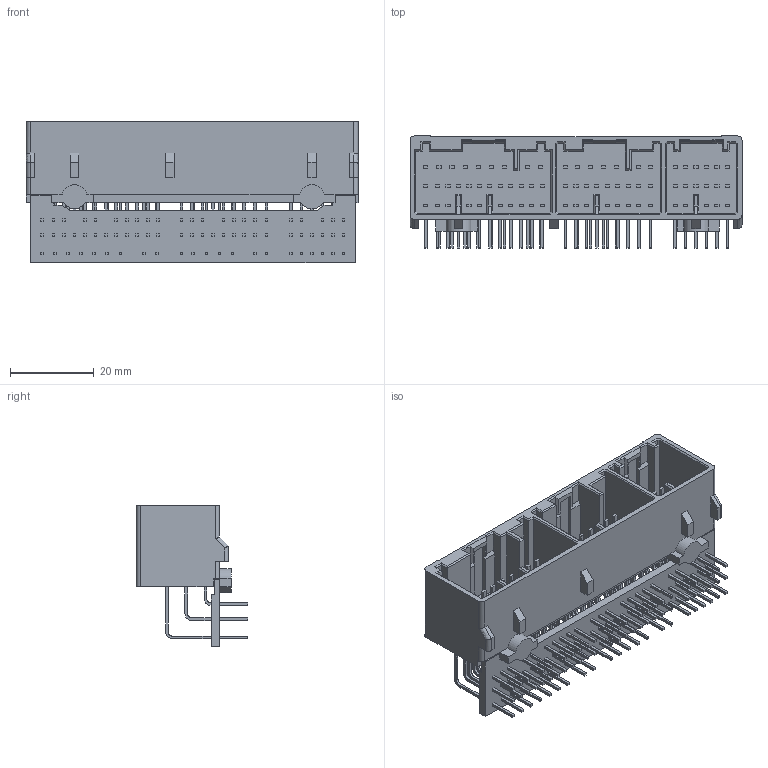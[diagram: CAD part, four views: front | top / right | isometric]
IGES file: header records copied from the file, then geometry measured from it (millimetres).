
Start section:  PTC IGES file: c-1123038-2-h-3d.igs
Global section: file name: c-1123038-2-h-3d.igs; native system: Pro/ENGINEER by Parametric Technology Corporation; preprocessor: 2011490; author: workeradm; organization: Unknown; units: millimetre
Bounding box: 79.4 x 26.75 x 33.85 mm (x, y, z)
Surface area: 20344.9 mm2 (no closed solid volume)
Topology: 0 solids, 0 shells, 1594 faces, 8476 edges, 8476 vertices
Faces by surface type: bspline 1438, revolution 156
